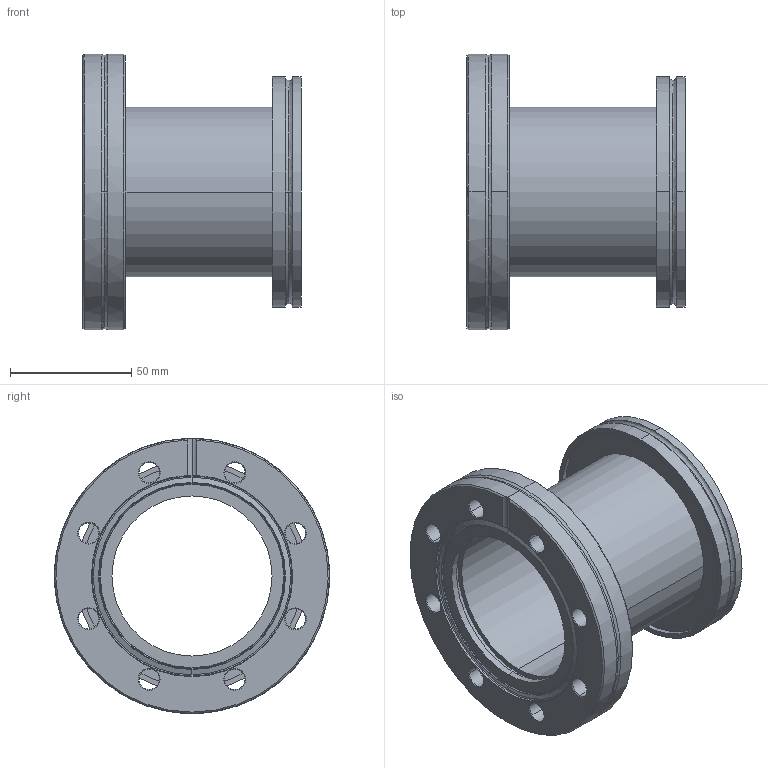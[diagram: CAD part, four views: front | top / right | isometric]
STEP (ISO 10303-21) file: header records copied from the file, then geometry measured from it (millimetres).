
FILE_DESCRIPTION((''),'2;1');
FILE_NAME('N:\Transfer\Berger Martin\Leybold\C13\83701.stp','2005-02-08T11:27:50',('PESO'),(''),'Autodesk Inventor 9','Autodesk Inventor 9','');
FILE_SCHEMA(('AUTOMOTIVE_DESIGN { 1 0 10303 214 1 1 1 1 }'));
Length unit declared in the file: millimetre
Products named in the file (1): 83701
Bounding box: 90 x 113.5 x 113.5 mm (x, y, z)
Volume: 166751.4 mm3; surface area: 72463.7 mm2
Topology: 1 solids, 1 shells, 123 faces, 292 edges, 179 vertices
Faces by surface type: cone 48, bspline 32, cylinder 26, plane 11, torus 6
Entity records: 4596 total; most frequent: CARTESIAN_POINT 1695, DIRECTION 647, ORIENTED_EDGE 584, EDGE_CURVE 292, AXIS2_PLACEMENT_3D 279, CIRCLE 187, VERTEX_POINT 179, EDGE_LOOP 149
